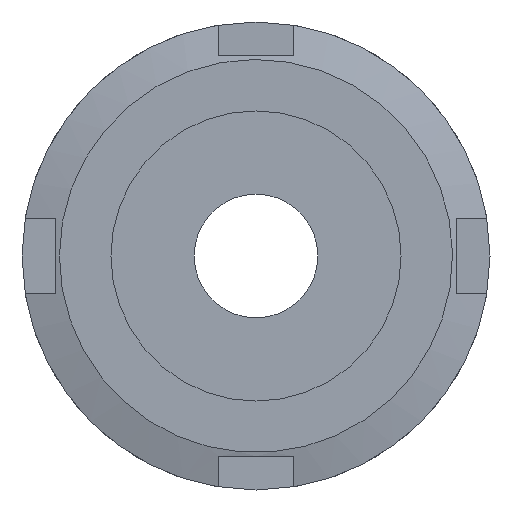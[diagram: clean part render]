
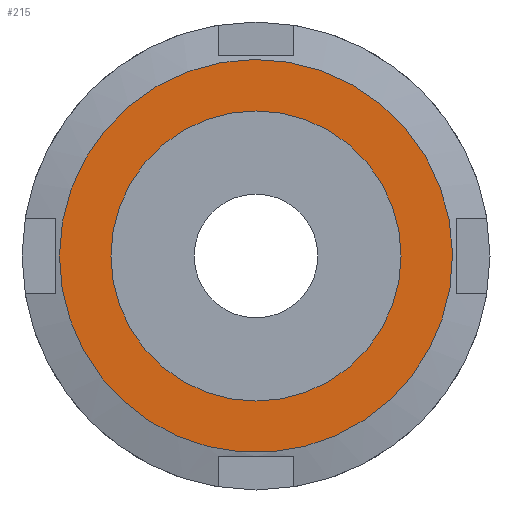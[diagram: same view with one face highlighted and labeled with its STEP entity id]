
A CAD part, left-side view. The second image highlights one B-rep face of the part: STEP entity #215.
In plain terms, the highlighted planar face has unit normal (-1, 0, 0) as drawn and (0, -1, 0) by its records, which use the part's own axes.
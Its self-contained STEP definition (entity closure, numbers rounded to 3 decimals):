
#215 = ADVANCED_FACE( '', ( #288, #289 ), #290, .F. );
#288 = FACE_BOUND( '', #440, .T. );
#289 = FACE_OUTER_BOUND( '', #441, .T. );
#290 = PLANE( '', #442 );
#440 = EDGE_LOOP( '', ( #648 ) );
#441 = EDGE_LOOP( '', ( #649 ) );
#442 = AXIS2_PLACEMENT_3D( '', #650, #651, #652 );
#648 = ORIENTED_EDGE( '', *, *, #1039, .F. );
#649 = ORIENTED_EDGE( '', *, *, #1040, .T. );
#650 = CARTESIAN_POINT( '', ( 10.5, 0., 0. ) );
#651 = DIRECTION( '', ( 0., 1., 0. ) );
#652 = DIRECTION( '', ( 0., 0., 1. ) );
#1039 = EDGE_CURVE( '', #1192, #1192, #1193, .T. );
#1040 = EDGE_CURVE( '', #1194, #1194, #1195, .T. );
#1192 = VERTEX_POINT( '', #1518 );
#1193 = CIRCLE( '', #1519, 7.75 );
#1194 = VERTEX_POINT( '', #1520 );
#1195 = CIRCLE( '', #1521, 10.5 );
#1518 = CARTESIAN_POINT( '', ( 0., 0., -7.75 ) );
#1519 = AXIS2_PLACEMENT_3D( '', #1792, #1793, #1794 );
#1520 = CARTESIAN_POINT( '', ( 0., 0., -10.5 ) );
#1521 = AXIS2_PLACEMENT_3D( '', #1795, #1796, #1797 );
#1792 = CARTESIAN_POINT( '', ( 0., 0., 0. ) );
#1793 = DIRECTION( '', ( 0., -1., 0. ) );
#1794 = DIRECTION( '', ( 0., 0., -1. ) );
#1795 = CARTESIAN_POINT( '', ( 0., 0., 0. ) );
#1796 = DIRECTION( '', ( 0., -1., 0. ) );
#1797 = DIRECTION( '', ( 0., 0., -1. ) );
